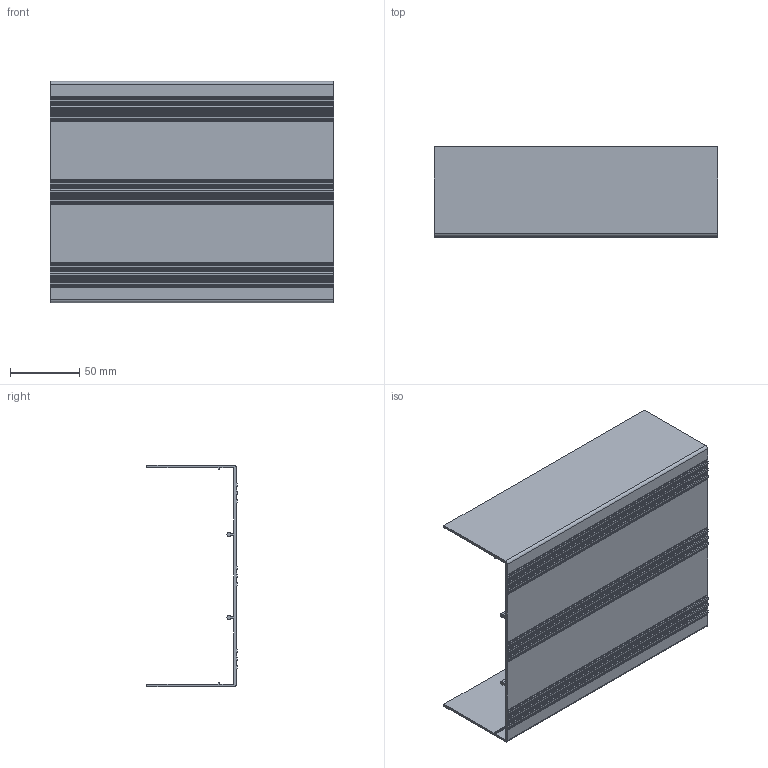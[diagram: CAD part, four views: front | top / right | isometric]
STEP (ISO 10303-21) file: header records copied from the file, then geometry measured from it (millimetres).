
FILE_DESCRIPTION (( 'STEP AP214' ), '1' );
FILE_NAME ('53314.STEP', '2021-03-22T01:17:14', ( '' ), ( '' ), 'SwSTEP 2.0', 'SolidWorks 2017', '' );
FILE_SCHEMA (( 'AUTOMOTIVE_DESIGN' ));
Length unit declared in the file: millimetre
Products named in the file (2): 53314
Bounding box: 204.78 x 65.2 x 160 mm (x, y, z)
Volume: 113351.1 mm3; surface area: 123305.6 mm2
Topology: 1 solids, 1 shells, 106 faces, 312 edges, 208 vertices
Faces by surface type: plane 60, cylinder 46
Entity records: 3597 total; most frequent: CARTESIAN_POINT 628, ORIENTED_EDGE 624, DIRECTION 620, EDGE_CURVE 312, VECTOR 220, LINE 220, VERTEX_POINT 208, AXIS2_PLACEMENT_3D 200
